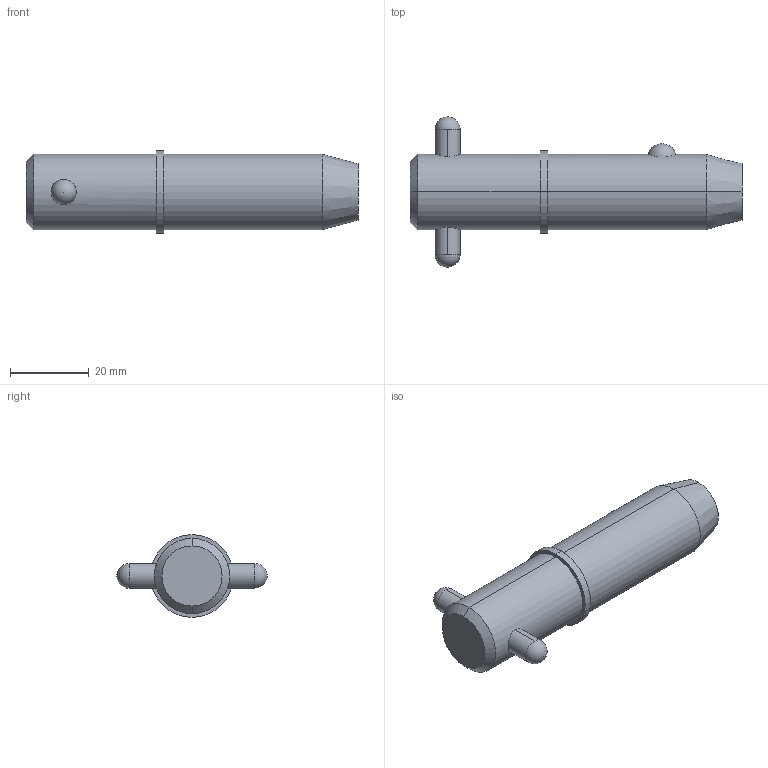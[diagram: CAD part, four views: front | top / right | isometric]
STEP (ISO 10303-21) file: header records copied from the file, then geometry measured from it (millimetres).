
FILE_DESCRIPTION (( 'STEP AP203' ), '1' );
FILE_NAME ('33018.W7510.step', '2024-11-19T17:19:51', ( '' ), ( '' ), 'SwSTEP 2.0', 'SolidWorks 2019', '' );
FILE_SCHEMA (( 'CONFIG_CONTROL_DESIGN' ));
Length unit declared in the file: millimetre
Products named in the file (3): 33018.W7510; Part1_33018.W7510; Part2_33018.W7510
Assembly tree (2 placements, depth 2):
  33018.W7510
    Part1_33018.W7510
    Part2_33018.W7510
Bounding box: 84.13 x 38.1 x 20.95 mm (x, y, z)
Volume: 24025.2 mm3; surface area: 6583.4 mm2
Topology: 2 solids, 2 shells, 22 faces, 47 edges, 30 vertices
Faces by surface type: cylinder 10, sphere 4, cone 4, plane 4
Entity records: 1041 total; most frequent: CARTESIAN_POINT 284, DIRECTION 110, ORIENTED_EDGE 82, AXIS2_PLACEMENT_3D 48, EDGE_CURVE 41, EDGE_LOOP 27, PERSON_AND_ORGANIZATION 26, VERTEX_POINT 26
